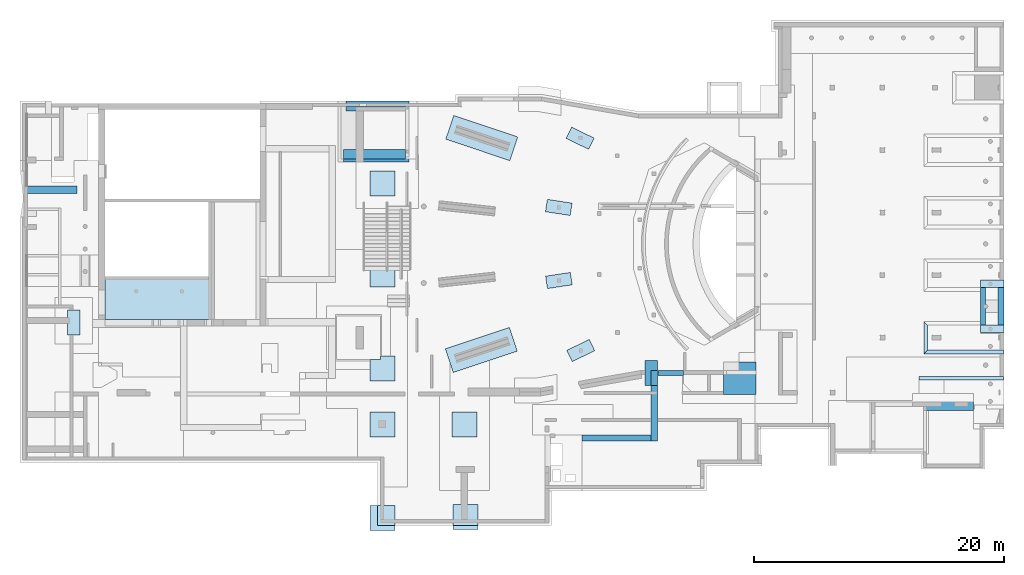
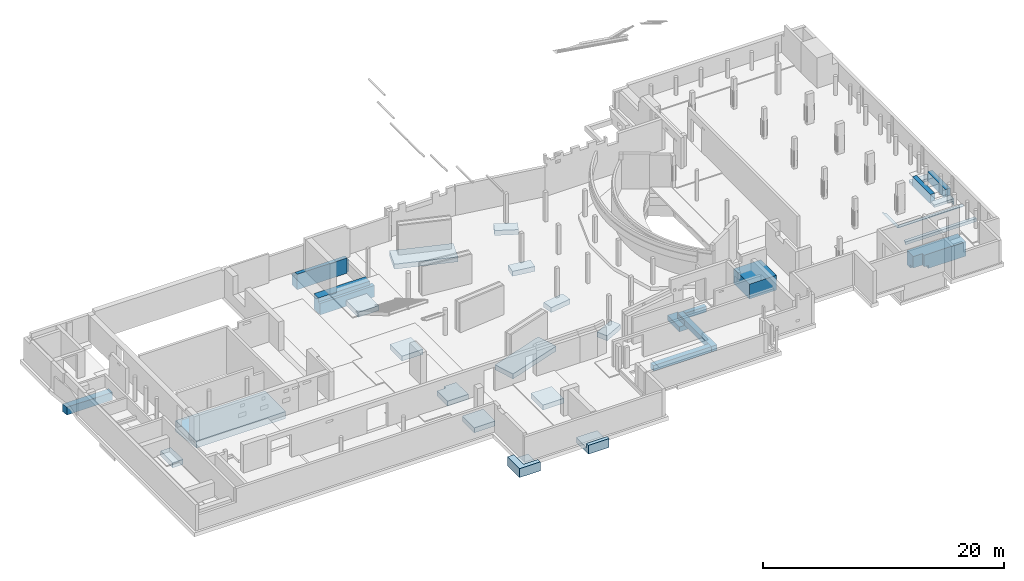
# One storey, part 1 of 42: 31 footings.
"""IFC2X3 building model written with IfcOpenShell, lengths in millimetres."""

from ifc_helpers import new_model, entity, si_unit, converted_unit, derived_unit, direction, frame, frame_2d, origin, origin_2d_with_axis, place, context, subcontext, project, spatial, polyline, rectangle, outline, extrude, faceted_brep, source, transform, mapped, material, type_object, type_shapes, element, save


model = new_model("IFC2X3")

# Units and contexts
model_context = context("Model", 3, precision=0.01, world=origin(), true_north=direction((6.12303176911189e-17, 1.0)))
body_context = subcontext(model_context, "Body", "Model", "MODEL_VIEW")
ifc_project = project(units=[si_unit("LENGTHUNIT", "METRE", prefix="MILLI"), si_unit("AREAUNIT", "SQUARE_METRE", prefix="MILLI"), si_unit("VOLUMEUNIT", "CUBIC_METRE"), converted_unit("PLANEANGLEUNIT", "DEGREE", entity("IfcRatioMeasure", 0.0174532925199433), si_unit("PLANEANGLEUNIT", "RADIAN"), dimensions=[0, 0, 0, 0, 0, 0, 0]), si_unit("MASSUNIT", "GRAM", prefix="KILO"), derived_unit("MASSDENSITYUNIT", [(si_unit("MASSUNIT", "GRAM", prefix="KILO"), 1), (si_unit("LENGTHUNIT", "METRE"), -3)]), derived_unit("MOMENTOFINERTIAUNIT", [(si_unit("LENGTHUNIT", "METRE"), 4)]), si_unit("TIMEUNIT", "SECOND"), si_unit("FREQUENCYUNIT", "HERTZ"), si_unit("THERMODYNAMICTEMPERATUREUNIT", "DEGREE_CELSIUS"), derived_unit("THERMALTRANSMITTANCEUNIT", [(si_unit("MASSUNIT", "GRAM", prefix="KILO"), 1), (si_unit("THERMODYNAMICTEMPERATUREUNIT", "KELVIN"), -1), (si_unit("TIMEUNIT", "SECOND"), -3)]), derived_unit("VOLUMETRICFLOWRATEUNIT", [(si_unit("LENGTHUNIT", "METRE"), 3), (si_unit("TIMEUNIT", "SECOND"), -1)]), si_unit("ELECTRICCURRENTUNIT", "AMPERE"), si_unit("ELECTRICVOLTAGEUNIT", "VOLT"), si_unit("POWERUNIT", "WATT"), si_unit("FORCEUNIT", "NEWTON", prefix="KILO"), si_unit("ILLUMINANCEUNIT", "LUX"), si_unit("LUMINOUSFLUXUNIT", "LUMEN"), si_unit("LUMINOUSINTENSITYUNIT", "CANDELA"), derived_unit("USERDEFINED", [(si_unit("MASSUNIT", "GRAM", prefix="KILO"), -1), (si_unit("LENGTHUNIT", "METRE"), -2), (si_unit("TIMEUNIT", "SECOND"), 3), (si_unit("LUMINOUSFLUXUNIT", "LUMEN"), 1)]), derived_unit("LINEARVELOCITYUNIT", [(si_unit("LENGTHUNIT", "METRE"), 1), (si_unit("TIMEUNIT", "SECOND"), -1)]), si_unit("PRESSUREUNIT", "PASCAL"), derived_unit("USERDEFINED", [(si_unit("LENGTHUNIT", "METRE"), -2), (si_unit("MASSUNIT", "GRAM", prefix="KILO"), 1), (si_unit("TIMEUNIT", "SECOND"), -2)]), derived_unit("LINEARFORCEUNIT", [(si_unit("MASSUNIT", "GRAM", prefix="KILO"), 1), (si_unit("LENGTHUNIT", "METRE"), 1), (si_unit("TIMEUNIT", "SECOND"), -2), (si_unit("LENGTHUNIT", "METRE"), -1)]), derived_unit("PLANARFORCEUNIT", [(si_unit("MASSUNIT", "GRAM", prefix="KILO"), 1), (si_unit("LENGTHUNIT", "METRE"), 1), (si_unit("TIMEUNIT", "SECOND"), -2), (si_unit("LENGTHUNIT", "METRE"), -2)])], contexts=[model_context])

# Site, building, storey
site_placement = place(None, origin())
site = spatial("IfcSite", under=ifc_project, at=site_placement, Name="Theater aan de Parade", CompositionType="ELEMENT")
building_placement = place(site_placement, origin())
building = spatial("IfcBuilding", under=site, at=building_placement, Name="Theater aan de Parade", CompositionType="ELEMENT")
storey_placement = place(building_placement, frame((0.0, 0.0, -3300.0)))
storey = spatial("IfcBuildingStorey", under=building, at=storey_placement, Name="-1 kelder", CompositionType="ELEMENT", Elevation=-3300.0)

# Footings
ifc_material_1 = material(Name="00_PBT_MAT_beton t.p.g.")
type_product_1 = type_object("IfcTypeProduct", Name="16_PBT_SF_funderingsbalk:600x1360_bestaand", material=ifc_material_1)
shared_shape_1 = source(origin(), body_context, "Body", "SweptSolid", [
    extrude(outline(polyline([(35.0, -1167.50000000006), (295.0, -1167.50000000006), (295.0, 722.500000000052), (-365.0, 722.500000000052), (-365.0, 702.499999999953), (35.0, 702.499999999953), (35.0, 252.500000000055), (35.0, -767.500000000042), (35.0, -1167.50000000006)])), frame((87957.5000000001, 28970.0, -3635.0), z_axis=(0.0, 1.0, 0.0), x_axis=(0.0, 0.0, 1.0)), (0.0, 0.0, 1.0), 600.000000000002),
])
type_shapes(type_product_1, [shared_shape_1])
footing_1_placement = place(storey_placement, frame((0.0, 0.0, 3300.0)))
element("IfcFooting", 1, at=footing_1_placement, inside=storey, type_object=type_product_1, material=ifc_material_1, Name="16_PBT_SF_funderingsbalk:600x1360_bestaand", ObjectType="16_PBT_SF_funderingsbalk:600x1360_bestaand", context=body_context, shape_type="MappedRepresentation", body=[
    mapped(shared_shape_1, transform((0.0, 0.0, 0.0), scale=1.0)),
])
type_product_2 = type_object("IfcTypeProduct", Name="16_PBT_SF_funderingsbalk:600x1360_bestaand", material=ifc_material_1)
shared_shape_2 = source(origin(), body_context, "Body", "SweptSolid", [
    extrude(outline(polyline([(46.6666666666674, -1253.33333333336), (306.666666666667, -1253.33333333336), (306.666666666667, 636.66666666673), (-353.333333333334, 636.66666666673), (-353.333333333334, 616.666666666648), (46.6666666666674, 616.666666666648), (46.6666666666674, -1253.33333333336)])), frame((88043.3333333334, 25370.0, -3646.66666666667), z_axis=(0.0, 1.0, 0.0), x_axis=(0.0, 0.0, 1.0)), (0.0, 0.0, 1.0), 600.000000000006),
])
type_shapes(type_product_2, [shared_shape_2])
footing_2_placement = place(storey_placement, frame((0.0, 0.0, 3300.0)))
element("IfcFooting", 2, at=footing_2_placement, inside=storey, type_object=type_product_2, material=ifc_material_1, Name="16_PBT_SF_funderingsbalk:600x1360_bestaand", ObjectType="16_PBT_SF_funderingsbalk:600x1360_bestaand", context=body_context, shape_type="MappedRepresentation", body=[
    mapped(shared_shape_2, transform((0.0, 0.0, 0.0), scale=1.0)),
])
type_product_3 = type_object("IfcTypeProduct", Name="16_PBT_SF_funderingsbalk:400x1360_bestaand", material=ifc_material_1)
shared_shape_3 = source(origin(), body_context, "Body", "SweptSolid", [
    extrude(rectangle(XDim=3000.00000000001, YDim=400.000000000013, at=frame_2d((-6.48014975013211e-12, -66.6666666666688), x_axis=(1.0, 0.0))), frame((87056.6666666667, 27470.0, -3600.0), z_axis=(0.0, 0.0, 1.0), x_axis=(0.0, -1.0, 0.0)), (0.0, 0.0, 1.0), 959.999999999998),
])
type_shapes(type_product_3, [shared_shape_3])
footing_3_placement = place(storey_placement, frame((0.0, 0.0, 3300.0)))
element("IfcFooting", 3, at=footing_3_placement, inside=storey, type_object=type_product_3, material=ifc_material_1, Name="16_PBT_SF_funderingsbalk:400x1360_bestaand", ObjectType="16_PBT_SF_funderingsbalk:400x1360_bestaand", context=body_context, shape_type="MappedRepresentation", body=[
    mapped(shared_shape_3, transform((0.0, 0.0, 0.0), scale=1.0)),
])
type_product_4 = type_object("IfcTypeProduct", Name="16_PBT_SF_funderingsbalk:470x1360_bestaand", material=ifc_material_1)
shared_shape_4 = source(origin(), body_context, "Body", "SweptSolid", [
    extrude(outline(polyline([(-288.749999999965, -692.499999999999), (181.250000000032, -692.499999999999), (181.250000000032, 7.49999999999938), (181.250000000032, 667.500000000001), (161.249999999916, 667.500000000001), (161.249999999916, 267.499999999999), (-288.749999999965, 267.499999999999), (-288.749999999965, -492.500000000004), (-288.749999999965, -692.499999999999)])), frame((88498.7500000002, 25970.0, -3332.5), z_axis=(0.0, 1.0, 0.0), x_axis=(1.0, 0.0, 0.0)), (0.0, 0.0, 1.0), 3000.0),
])
type_shapes(type_product_4, [shared_shape_4])
footing_4_placement = place(storey_placement, frame((0.0, 0.0, 3300.0)))
element("IfcFooting", 4, at=footing_4_placement, inside=storey, type_object=type_product_4, material=ifc_material_1, Name="16_PBT_SF_funderingsbalk:470x1360_bestaand", ObjectType="16_PBT_SF_funderingsbalk:470x1360_bestaand", context=body_context, shape_type="MappedRepresentation", body=[
    mapped(shared_shape_4, transform((0.0, 0.0, 0.0), scale=1.0)),
])
type_product_5 = type_object("IfcTypeProduct", Name="16_PBT_SF_funderingsbalk_driehoek:300x300_bestaand", material=ifc_material_1)
shared_shape_5 = source(origin(), body_context, "Body", "Brep", [
    faceted_brep([(6390.0, 300.0, 300.0), (6390.0, 0.0, 300.0), (6390.0, 300.0, 0.0), (300.0, 300.0, 300.0), (0.0, 0.0, 300.0), (300.0, 300.0, 0.0)], [[[0, 1, 2]], [[1, 0, 3, 4]], [[2, 1, 4, 5]], [[0, 2, 5, 3]], [[3, 5, 4]]]),
])
type_shapes(type_product_5, [shared_shape_5])
footing_5_placement = place(storey_placement, frame((82270.0, 23670.0, -40.0)))
element("IfcFooting", 5, at=footing_5_placement, inside=storey, type_object=type_product_5, material=ifc_material_1, Name="16_PBT_SF_funderingsbalk_driehoek:300x300_bestaand", ObjectType="16_PBT_SF_funderingsbalk_driehoek:300x300_bestaand", context=body_context, shape_type="MappedRepresentation", body=[
    mapped(shared_shape_5, transform((0.0, 0.0, 0.0), scale=1.0)),
])
type_product_6 = type_object("IfcTypeProduct", Name="16_PBT_SF_funderingsbalk_driehoek:300x300_bestaand", material=ifc_material_1)
shared_shape_6 = source(origin(), body_context, "Body", "Brep", [
    faceted_brep([(300.0, 300.0, 300.0), (300.0, 2300.0, 300.0), (0.0, 2600.0, 300.0), (0.0, 0.0, 300.0), (300.0, 2300.0, 0.0), (300.0, 300.0, 0.0)], [[[0, 1, 2, 3]], [[3, 2, 4, 5]], [[1, 0, 5, 4]], [[0, 3, 5]], [[1, 4, 2]]]),
])
type_shapes(type_product_6, [shared_shape_6])
footing_6_placement = place(storey_placement, frame((82270.0, 23670.0, -40.0)))
element("IfcFooting", 6, at=footing_6_placement, inside=storey, type_object=type_product_6, material=ifc_material_1, Name="16_PBT_SF_funderingsbalk_driehoek:300x300_bestaand", ObjectType="16_PBT_SF_funderingsbalk_driehoek:300x300_bestaand", context=body_context, shape_type="MappedRepresentation", body=[
    mapped(shared_shape_6, transform((0.0, 0.0, 0.0), scale=1.0)),
])
type_product_7 = type_object("IfcTypeProduct", Name="16_PBT_SF_funderingsbalk_driehoek:300x300_bestaand", material=ifc_material_1)
shared_shape_7 = source(origin(), body_context, "Body", "SweptSolid", [
    extrude(outline(polyline([(-100.0, -100.0), (200.0, -100.0), (-100.0, 200.0), (-100.0, -100.0)])), frame((81870.0, 21670.0, -3140.0), z_axis=(1.0, 0.0, 0.0), x_axis=(0.0, 0.0, -1.0)), (0.0, 0.0, 1.0), 6789.99999999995),
])
type_shapes(type_product_7, [shared_shape_7])
footing_7_placement = place(storey_placement, frame((0.0, 0.0, 3300.0)))
element("IfcFooting", 7, at=footing_7_placement, inside=storey, type_object=type_product_7, material=ifc_material_1, Name="16_PBT_SF_funderingsbalk_driehoek:300x300_bestaand", ObjectType="16_PBT_SF_funderingsbalk_driehoek:300x300_bestaand", context=body_context, shape_type="MappedRepresentation", body=[
    mapped(shared_shape_7, transform((0.0, 0.0, 0.0), scale=1.0)),
])
type_product_8 = type_object("IfcTypeProduct", Name="16_PBT_SF_funderingsbalk:400x960_bestaand", material=ifc_material_1)
shared_shape_8 = source(origin(), body_context, "Body", "SweptSolid", [
    extrude(rectangle(XDim=2042.29999999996, YDim=400.0, at=frame_2d((-192.230000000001, 40.0000000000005), x_axis=(1.0, 0.0))), frame((62206.0800000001, 22100.0, -3740.0)), (0.0, 0.0, 1.0), 560.0),
])
type_shapes(type_product_8, [shared_shape_8])
footing_8_placement = place(storey_placement, frame((0.0, 0.0, 3300.0)))
element("IfcFooting", 8, at=footing_8_placement, inside=storey, type_object=type_product_8, material=ifc_material_1, Name="16_PBT_SF_funderingsbalk:400x960_bestaand", ObjectType="16_PBT_SF_funderingsbalk:400x960_bestaand", context=body_context, shape_type="MappedRepresentation", body=[
    mapped(shared_shape_8, transform((0.0, 0.0, 0.0), scale=1.0)),
])
type_product_9 = type_object("IfcTypeProduct", Name="16_PBT_SF_funderingsbalk:510x960_bestaand", material=ifc_material_1)
shared_shape_9 = source(origin(), body_context, "Body", "SweptSolid", [
    extrude(outline(polyline([(6.6666666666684, -2953.9401852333), (166.666666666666, -2953.9401852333), (166.666666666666, -1268.9316208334), (166.666666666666, -1018.9316208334), (166.666666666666, 874.692361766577), (166.666666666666, 1124.69236176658), (166.666666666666, 2186.05981476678), (166.666666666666, 2686.05981476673), (-393.333333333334, 2686.05981476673), (-393.333333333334, 2186.05981476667), (-393.333333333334, -1773.9401852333), (6.6666666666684, -1773.9401852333), (6.6666666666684, -2953.9401852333)])), frame((60470.0, 19386.0598147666, -3346.66666666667), z_axis=(1.0, 0.0, 0.0), x_axis=(0.0, 0.0, 1.0)), (0.0, 0.0, 1.0), 510.000000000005),
])
type_shapes(type_product_9, [shared_shape_9])
footing_9_placement = place(storey_placement, frame((0.0, 0.0, 3300.0)))
element("IfcFooting", 9, at=footing_9_placement, inside=storey, type_object=type_product_9, material=ifc_material_1, Name="16_PBT_SF_funderingsbalk:510x960_bestaand", ObjectType="16_PBT_SF_funderingsbalk:510x960_bestaand", context=body_context, shape_type="MappedRepresentation", body=[
    mapped(shared_shape_9, transform((0.0, 0.0, 0.0), scale=1.0)),
])
type_product_10 = type_object("IfcTypeProduct", Name="16_PBT_SF_funderingsbalk:500x960_bestaand", material=ifc_material_1)
shared_shape_10 = source(origin(), body_context, "Body", "SweptSolid", [
    extrude(rectangle(XDim=5555.0, YDim=500.000000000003, at=frame_2d((0.0, -1.08002495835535e-12), x_axis=(1.0, 0.0))), frame((57692.5000000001, 16950.0, -3740.0)), (0.0, 0.0, 1.0), 560.0),
])
type_shapes(type_product_10, [shared_shape_10])
footing_10_placement = place(storey_placement, frame((0.0, 0.0, 3300.0)))
element("IfcFooting", 10, at=footing_10_placement, inside=storey, type_object=type_product_10, material=ifc_material_1, Name="16_PBT_SF_funderingsbalk:500x960_bestaand", ObjectType="16_PBT_SF_funderingsbalk:500x960_bestaand", context=body_context, shape_type="MappedRepresentation", body=[
    mapped(shared_shape_10, transform((0.0, 0.0, 0.0), scale=1.0)),
])
type_product_11 = type_object("IfcTypeProduct", Name="16_PBT_SFO_beton_poer:1000x2000x900_bestaand", material=ifc_material_1)
shared_shape_11 = source(origin(), body_context, "Body", "Brep", [
    faceted_brep([(490.0, 0.0, 900.0), (1000.0, 0.0, 900.0), (1000.0, 1180.0, 900.0), (490.0, 1180.0, 900.0), (1000.0, 2000.0, 0.0), (1000.0, 0.0, 0.0), (0.0, 0.0, 0.0), (0.0, 2000.0, 0.0), (0.0, 2000.0, 500.0), (1000.0, 2000.0, 500.0), (0.0, 0.0, 500.0), (1000.0, 0.0, 500.0), (490.0, 0.0, 500.0), (1000.0, 1180.0, 500.0), (490.0, 1180.0, 500.0)], [[[0, 1, 2, 3]], [[4, 5, 6, 7]], [[4, 7, 8, 9]], [[7, 6, 10, 8]], [[6, 5, 11, 1, 0, 12, 10]], [[5, 4, 9, 13, 2, 1, 11]], [[12, 14, 13, 9, 8, 10]], [[14, 3, 2, 13]], [[3, 14, 12, 0]]]),
])
type_shapes(type_product_11, [shared_shape_11])
footing_11_placement = place(storey_placement, frame((59980.0, 21160.0, -940.0)))
element("IfcFooting", 11, at=footing_11_placement, inside=storey, type_object=type_product_11, material=ifc_material_1, Name="16_PBT_SFO_beton_poer:1000x2000x900_bestaand", ObjectType="16_PBT_SFO_beton_poer:1000x2000x900_bestaand", context=body_context, shape_type="MappedRepresentation", body=[
    mapped(shared_shape_11, transform((0.0, 0.0, 0.0), scale=1.0)),
])
type_product_12 = type_object("IfcTypeProduct", Name="16_PBT_SFO_beton_poer:1000x2000x900_bestaand", material=ifc_material_1)
shared_shape_12 = source(origin(), body_context, "Body", "SweptSolid", [
    extrude(rectangle(XDim=1000.0, YDim=2000.00000000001, at=frame_2d((5.76960701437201e-12, -1.98951966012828e-12), x_axis=(1.0, 0.0))), frame((54785.0, 40913.0, -4240.0), z_axis=(0.0, 0.0, 1.0), x_axis=(-0.438387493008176, -0.898786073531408, 0.0)), (0.0, 0.0, 1.0), 499.999999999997),
])
type_shapes(type_product_12, [shared_shape_12])
footing_12_placement = place(storey_placement, frame((0.0, 0.0, 3300.0)))
element("IfcFooting", 12, at=footing_12_placement, inside=storey, type_object=type_product_12, material=ifc_material_1, Name="16_PBT_SFO_beton_poer:1000x2000x900_bestaand", ObjectType="16_PBT_SFO_beton_poer:1000x2000x900_bestaand", context=body_context, shape_type="MappedRepresentation", body=[
    mapped(shared_shape_12, transform((0.0, 0.0, 0.0), scale=1.0)),
])
type_product_13 = type_object("IfcTypeProduct", Name="16_PBT_SFO_beton_poer:1000x2000x900_bestaand", material=ifc_material_1)
shared_shape_13 = source(origin(), body_context, "Body", "SweptSolid", [
    extrude(rectangle(XDim=1000.0, YDim=2000.0, at=frame_2d((3.60955709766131e-12, 4.83169060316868e-12), x_axis=(1.0, 0.0))), frame((53075.0, 35382.0, -4240.0), z_axis=(0.0, 0.0, 1.0), x_axis=(-0.149610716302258, -0.988744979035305, 0.0)), (0.0, 0.0, 1.0), 499.999999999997),
])
type_shapes(type_product_13, [shared_shape_13])
footing_13_placement = place(storey_placement, frame((0.0, 0.0, 3300.0)))
element("IfcFooting", 13, at=footing_13_placement, inside=storey, type_object=type_product_13, material=ifc_material_1, Name="16_PBT_SFO_beton_poer:1000x2000x900_bestaand", ObjectType="16_PBT_SFO_beton_poer:1000x2000x900_bestaand", context=body_context, shape_type="MappedRepresentation", body=[
    mapped(shared_shape_13, transform((0.0, 0.0, 0.0), scale=1.0)),
])
type_product_14 = type_object("IfcTypeProduct", Name="16_PBT_SFO_beton_poer:1000x2000x900_bestaand", material=ifc_material_1)
shared_shape_14 = source(origin(), body_context, "Body", "SweptSolid", [
    extrude(rectangle(XDim=1000.0, YDim=2000.00000000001, at=frame_2d((-3.78008735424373e-12, -7.7875483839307e-12), x_axis=(1.0, 0.0))), frame((54830.0, 23937.0, -4240.0), z_axis=(0.0, 0.0, 1.0), x_axis=(-0.438387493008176, 0.898786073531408, 0.0)), (0.0, 0.0, 1.0), 499.999999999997),
])
type_shapes(type_product_14, [shared_shape_14])
footing_14_placement = place(storey_placement, frame((0.0, 0.0, 3300.0)))
element("IfcFooting", 14, at=footing_14_placement, inside=storey, type_object=type_product_14, material=ifc_material_1, Name="16_PBT_SFO_beton_poer:1000x2000x900_bestaand", ObjectType="16_PBT_SFO_beton_poer:1000x2000x900_bestaand", context=body_context, shape_type="MappedRepresentation", body=[
    mapped(shared_shape_14, transform((0.0, 0.0, 0.0), scale=1.0)),
])
type_product_15 = type_object("IfcTypeProduct", Name="16_PBT_SFO_beton_poer:1000x2000x900_bestaand", material=ifc_material_1)
shared_shape_15 = source(origin(), body_context, "Body", "SweptSolid", [
    extrude(rectangle(XDim=1000.0, YDim=2000.0, at=origin_2d_with_axis()), frame((53085.0, 29538.0, -4240.0), z_axis=(0.0, 0.0, 1.0), x_axis=(-0.149610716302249, 0.988744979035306, 0.0)), (0.0, 0.0, 1.0), 499.999999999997),
])
type_shapes(type_product_15, [shared_shape_15])
footing_15_placement = place(storey_placement, frame((0.0, 0.0, 3300.0)))
element("IfcFooting", 15, at=footing_15_placement, inside=storey, type_object=type_product_15, material=ifc_material_1, Name="16_PBT_SFO_beton_poer:1000x2000x900_bestaand", ObjectType="16_PBT_SFO_beton_poer:1000x2000x900_bestaand", context=body_context, shape_type="MappedRepresentation", body=[
    mapped(shared_shape_15, transform((0.0, 0.0, 0.0), scale=1.0)),
])
type_product_16 = type_object("IfcTypeProduct", Name="16_PBT_SFO_beton_poer:5400x2000x900_bestaand", material=ifc_material_1)
shared_shape_16 = source(origin(), body_context, "Body", "SweptSolid", [
    extrude(rectangle(XDim=5400.0, YDim=2000.0, at=frame_2d((-1.36424205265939e-12, 4.14956957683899e-12), x_axis=(1.0, 0.0))), frame((46915.4271453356, 40928.8630805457, -4240.0), z_axis=(0.0, 0.0, 1.0), x_axis=(0.948323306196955, -0.317305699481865, 0.0)), (0.0, 0.0, 1.0), 499.999999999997),
])
type_shapes(type_product_16, [shared_shape_16])
footing_16_placement = place(storey_placement, frame((0.0, 0.0, 3300.0)))
element("IfcFooting", 16, at=footing_16_placement, inside=storey, type_object=type_product_16, material=ifc_material_1, Name="16_PBT_SFO_beton_poer:5400x2000x900_bestaand", ObjectType="16_PBT_SFO_beton_poer:5400x2000x900_bestaand", context=body_context, shape_type="MappedRepresentation", body=[
    mapped(shared_shape_16, transform((0.0, 0.0, 0.0), scale=1.0)),
])
type_product_17 = type_object("IfcTypeProduct", Name="16_PBT_SFO_beton_poer:5400x2000x900_bestaand", material=ifc_material_1)
shared_shape_17 = source(origin(), body_context, "Body", "SweptSolid", [
    extrude(rectangle(XDim=5400.0, YDim=2000.0, at=origin_2d_with_axis()), frame((46884.2416971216, 23984.340058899, -4240.0), z_axis=(0.0, 0.0, 1.0), x_axis=(0.948323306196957, 0.31730569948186, 0.0)), (0.0, 0.0, 1.0), 499.999999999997),
])
type_shapes(type_product_17, [shared_shape_17])
footing_17_placement = place(storey_placement, frame((0.0, 0.0, 3300.0)))
element("IfcFooting", 17, at=footing_17_placement, inside=storey, type_object=type_product_17, material=ifc_material_1, Name="16_PBT_SFO_beton_poer:5400x2000x900_bestaand", ObjectType="16_PBT_SFO_beton_poer:5400x2000x900_bestaand", context=body_context, shape_type="MappedRepresentation", body=[
    mapped(shared_shape_17, transform((0.0, 0.0, 0.0), scale=1.0)),
])
type_product_18 = type_object("IfcTypeProduct", Name="16_PBT_SFO_beton_poer:2000x2000x900_bestaand", material=ifc_material_1)
shared_shape_18 = source(origin(), body_context, "Body", "SweptSolid", [
    extrude(rectangle(XDim=2000.0, YDim=2000.0, at=origin_2d_with_axis()), frame((45525.0, 18040.0, -4240.0), z_axis=(0.0, 0.0, 1.0), x_axis=(-1.0, 0.0, 0.0)), (0.0, 0.0, 1.0), 499.999999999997),
])
type_shapes(type_product_18, [shared_shape_18])
footing_18_placement = place(storey_placement, frame((0.0, 0.0, 3300.0)))
element("IfcFooting", 18, at=footing_18_placement, inside=storey, type_object=type_product_18, material=ifc_material_1, Name="16_PBT_SFO_beton_poer:2000x2000x900_bestaand", ObjectType="16_PBT_SFO_beton_poer:2000x2000x900_bestaand", context=body_context, shape_type="MappedRepresentation", body=[
    mapped(shared_shape_18, transform((0.0, 0.0, 0.0), scale=1.0)),
])
type_product_19 = type_object("IfcTypeProduct", Name="16_PBT_SFO_beton_poer:2000x2000x900_bestaand", material=ifc_material_1)
shared_shape_19 = source(origin(), body_context, "Body", "SweptSolid", [
    extrude(outline(polyline([(-466.666666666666, -1223.33333333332), (33.3333333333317, -1223.33333333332), (33.3333333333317, 446.666666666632), (433.333333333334, 446.666666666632), (433.333333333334, 776.666666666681), (-466.666666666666, 776.666666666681), (-466.666666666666, -1223.33333333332)])), frame((44600.0, 10406.6666666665, -3773.33333333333), z_axis=(1.0, 0.0, 0.0), x_axis=(0.0, 0.0, 1.0)), (0.0, 0.0, 1.0), 2000.0),
])
type_shapes(type_product_19, [shared_shape_19])
footing_19_placement = place(storey_placement, frame((0.0, 0.0, 3300.0)))
element("IfcFooting", 19, at=footing_19_placement, inside=storey, type_object=type_product_19, material=ifc_material_1, Name="16_PBT_SFO_beton_poer:2000x2000x900_bestaand", ObjectType="16_PBT_SFO_beton_poer:2000x2000x900_bestaand", context=body_context, shape_type="MappedRepresentation", body=[
    mapped(shared_shape_19, transform((0.0, 0.0, 0.0), scale=1.0)),
])
type_product_20 = type_object("IfcTypeProduct", Name="16_PBT_SFO_beton_poer:2000x2000x900_bestaand", material=ifc_material_1)
shared_shape_20 = source(origin(), body_context, "Body", "SweptSolid", [
    extrude(rectangle(XDim=2000.0, YDim=2000.0, at=frame_2d((2.1600499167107e-12, 0.0), x_axis=(1.0, 0.0))), frame((38965.0, 18040.0, -4240.0), z_axis=(0.0, 0.0, 1.0), x_axis=(-1.0, 0.0, 0.0)), (0.0, 0.0, 1.0), 499.999999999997),
])
type_shapes(type_product_20, [shared_shape_20])
footing_20_placement = place(storey_placement, frame((0.0, 0.0, 3300.0)))
element("IfcFooting", 20, at=footing_20_placement, inside=storey, type_object=type_product_20, material=ifc_material_1, Name="16_PBT_SFO_beton_poer:2000x2000x900_bestaand", ObjectType="16_PBT_SFO_beton_poer:2000x2000x900_bestaand", context=body_context, shape_type="MappedRepresentation", body=[
    mapped(shared_shape_20, transform((0.0, 0.0, 0.0), scale=1.0)),
])
type_product_21 = type_object("IfcTypeProduct", Name="16_PBT_SFO_beton_poer:2000x2000x900_bestaand", material=ifc_material_1)
shared_shape_21 = source(origin(), body_context, "Body", "Brep", [
    faceted_brep([(0.0, 2000.0, 900.0), (0.0, 0.0, 900.0), (2000.0, 0.0, 900.0), (2000.0, 400.0, 900.0), (610.0, 400.0, 900.0), (610.0, 2000.0, 900.0), (2000.0, 2000.0, 0.0), (2000.0, 0.0, 0.0), (0.0, 0.0, 0.0), (0.0, 2000.0, 0.0), (610.0, 2000.0, 500.0), (2000.0, 2000.0, 500.0), (2000.0, 400.0, 500.0), (610.0, 400.0, 500.0)], [[[0, 1, 2, 3, 4, 5]], [[6, 7, 8, 9]], [[6, 9, 0, 5, 10, 11]], [[1, 0, 9, 8]], [[2, 1, 8, 7]], [[7, 6, 11, 12, 3, 2]], [[10, 13, 12, 11]], [[13, 4, 3, 12]], [[4, 13, 10, 5]]]),
])
type_shapes(type_product_21, [shared_shape_21])
footing_21_placement = place(storey_placement, frame((37965.0, 9560.0, -940.0)))
element("IfcFooting", 21, at=footing_21_placement, inside=storey, type_object=type_product_21, material=ifc_material_1, Name="16_PBT_SFO_beton_poer:2000x2000x900_bestaand", ObjectType="16_PBT_SFO_beton_poer:2000x2000x900_bestaand", context=body_context, shape_type="MappedRepresentation", body=[
    mapped(shared_shape_21, transform((0.0, 0.0, 0.0), scale=1.0)),
])
type_product_22 = type_object("IfcTypeProduct", Name="16_PBT_SFO_beton_poer:2000x2000x900_bestaand", material=ifc_material_1)
shared_shape_22 = source(origin(), body_context, "Body", "SweptSolid", [
    extrude(outline(polyline([(-1279.19031165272, -655.482964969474), (-1263.80400390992, -655.482964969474), (-264.292879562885, -655.482964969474), (-119.190311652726, -655.482964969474), (-119.19031165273, -377.85036836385), (720.809688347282, -377.85036836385), (720.809688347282, -310.960689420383), (720.809688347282, 142.868345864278), (720.809688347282, 201.430917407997), (720.809688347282, 655.259952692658), (720.809688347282, 1344.51703503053), (-1279.19031165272, 1344.51703503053), (-1279.19031165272, -655.482964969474)])), frame((38685.8096883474, 22834.5170350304, -4240.0), z_axis=(0.0, 0.0, 1.0), x_axis=(-1.0, 0.0, 0.0)), (0.0, 0.0, 1.0), 499.999999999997),
])
type_shapes(type_product_22, [shared_shape_22])
footing_22_placement = place(storey_placement, frame((0.0, 0.0, 3300.0)))
element("IfcFooting", 22, at=footing_22_placement, inside=storey, type_object=type_product_22, material=ifc_material_1, Name="16_PBT_SFO_beton_poer:2000x2000x900_bestaand", ObjectType="16_PBT_SFO_beton_poer:2000x2000x900_bestaand", context=body_context, shape_type="MappedRepresentation", body=[
    mapped(shared_shape_22, transform((0.0, 0.0, 0.0), scale=1.0)),
])
type_product_23 = type_object("IfcTypeProduct", Name="16_PBT_SFO_beton_poer:2000x2000x900_bestaand", material=ifc_material_1)
shared_shape_23 = source(origin(), body_context, "Body", "SweptSolid", [
    extrude(rectangle(XDim=2000.0, YDim=2000.0, at=frame_2d((2.1600499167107e-12, -2.1600499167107e-12), x_axis=(1.0, 0.0))), frame((38965.0, 30010.0, -4240.0), z_axis=(0.0, 0.0, 1.0), x_axis=(-1.0, 0.0, 0.0)), (0.0, 0.0, 1.0), 499.999999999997),
])
type_shapes(type_product_23, [shared_shape_23])
footing_23_placement = place(storey_placement, frame((0.0, 0.0, 3300.0)))
element("IfcFooting", 23, at=footing_23_placement, inside=storey, type_object=type_product_23, material=ifc_material_1, Name="16_PBT_SFO_beton_poer:2000x2000x900_bestaand", ObjectType="16_PBT_SFO_beton_poer:2000x2000x900_bestaand", context=body_context, shape_type="MappedRepresentation", body=[
    mapped(shared_shape_23, transform((0.0, 0.0, 0.0), scale=1.0)),
])
type_product_24 = type_object("IfcTypeProduct", Name="16_PBT_SFO_beton_poer:2000x2000x900_bestaand", material=ifc_material_1)
shared_shape_24 = source(origin(), body_context, "Body", "SweptSolid", [
    extrude(rectangle(XDim=2000.0, YDim=2000.0, at=frame_2d((-0.407991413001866, 487.02496948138), x_axis=(1.0, 0.0))), frame((38964.5920085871, 37797.0249694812, -4240.0), z_axis=(0.0, 0.0, 1.0), x_axis=(-1.0, 0.0, 0.0)), (0.0, 0.0, 1.0), 499.999999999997),
])
type_shapes(type_product_24, [shared_shape_24])
footing_24_placement = place(storey_placement, frame((0.0, 0.0, 3300.0)))
element("IfcFooting", 24, at=footing_24_placement, inside=storey, type_object=type_product_24, material=ifc_material_1, Name="16_PBT_SFO_beton_poer:2000x2000x900_bestaand", ObjectType="16_PBT_SFO_beton_poer:2000x2000x900_bestaand", context=body_context, shape_type="MappedRepresentation", body=[
    mapped(shared_shape_24, transform((0.0, 0.0, 0.0), scale=1.0)),
])
type_product_25 = type_object("IfcTypeProduct", Name="16_PBT_SFO_beton_poer:1000x2000x900_bestaand", material=ifc_material_1)
shared_shape_25 = source(origin(), body_context, "Body", "SweptSolid", [
    extrude(rectangle(XDim=1000.0, YDim=2000.0, at=frame_2d((1.08002495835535e-12, 2.1600499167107e-12), x_axis=(1.0, 0.0))), frame((14275.0, 26160.0, -4240.0), z_axis=(0.0, 0.0, 1.0), x_axis=(-1.0, 0.0, 0.0)), (0.0, 0.0, 1.0), 499.999999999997),
])
type_shapes(type_product_25, [shared_shape_25])
footing_25_placement = place(storey_placement, frame((0.0, 0.0, 3300.0)))
element("IfcFooting", 25, at=footing_25_placement, inside=storey, type_object=type_product_25, material=ifc_material_1, Name="16_PBT_SFO_beton_poer:1000x2000x900_bestaand", ObjectType="16_PBT_SFO_beton_poer:1000x2000x900_bestaand", context=body_context, shape_type="MappedRepresentation", body=[
    mapped(shared_shape_25, transform((0.0, 0.0, 0.0), scale=1.0)),
])
type_product_26 = type_object("IfcTypeProduct", Name="16_PBT_SF_funderingsbalk:615x1180_bestaand", material=ifc_material_1)
shared_shape_26 = source(origin(), body_context, "Body", "SweptSolid", [
    extrude(outline(polyline([(-307.500000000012, -2196.61034788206), (307.499999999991, -2196.61034788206), (307.500000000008, 2228.49923677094), (-307.499999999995, 2164.72145899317), (-307.500000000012, -2196.61034788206)])), frame((12368.1620493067, 36807.4999999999, -4520.0), z_axis=(0.0, 0.0, 1.0), x_axis=(0.0, 1.0, 0.0)), (0.0, 0.0, 1.0), 780.000000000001),
])
type_shapes(type_product_26, [shared_shape_26])
footing_26_placement = place(storey_placement, frame((0.0, 0.0, 3300.0)))
element("IfcFooting", 26, at=footing_26_placement, inside=storey, type_object=type_product_26, material=ifc_material_1, Name="16_PBT_SF_funderingsbalk:615x1180_bestaand", ObjectType="16_PBT_SF_funderingsbalk:615x1180_bestaand", context=body_context, shape_type="MappedRepresentation", body=[
    mapped(shared_shape_26, transform((0.0, 0.0, 0.0), scale=1.0)),
])
ifc_material_2 = material(Name="00_PBT_MAT_beton t.p.g._C53/65")
type_product_27 = type_object("IfcTypeProduct", Name="16_PBT_SFO_beton_poer:2600x2600x1500_C53/65", material=ifc_material_2)
shared_shape_27 = source(origin(), body_context, "Body", "SweptSolid", [
    extrude(rectangle(XDim=2600.00000000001, YDim=2600.0, at=frame_2d((180.314025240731, 51.8739294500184), x_axis=(1.0, 0.0))), frame((67350.9420757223, 21653.11750615, -2640.0)), (0.0, 0.0, 1.0), 1500.0),
])
type_shapes(type_product_27, [shared_shape_27])
footing_27_placement = place(storey_placement, frame((0.0, 0.0, 3300.0)))
element("IfcFooting", 27, at=footing_27_placement, inside=storey, type_object=type_product_27, material=ifc_material_2, Name="16_PBT_SFO_beton_poer:2600x2600x1500_C53/65", ObjectType="16_PBT_SFO_beton_poer:2600x2600x1500_C53/65", context=body_context, shape_type="MappedRepresentation", body=[
    mapped(shared_shape_27, transform((0.0, 0.0, 0.0), scale=1.0)),
])
type_product_28 = type_object("IfcTypeProduct", Name="16_PBT_SFO_poer schuine onderzijde as B:16_PBT_SFO_poer schuine onderzijde as B_C53/65", material=ifc_material_2)
shared_shape_28 = source(origin(), body_context, "Body", "SweptSolid", [
    extrude(outline(polyline([(-362.436646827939, -2007.4), (337.480919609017, -2007.4), (749.829020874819, 1421.6), (-362.436646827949, 1421.6), (-362.436646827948, 1171.6), (-362.436646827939, -2007.4)])), frame((16775.0, 28417.4, -3702.43664682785), z_axis=(1.0, 0.0, 0.0), x_axis=(0.0, 0.0, -1.0)), (0.0, 0.0, 1.0), 8550.0),
])
type_shapes(type_product_28, [shared_shape_28])
footing_28_placement = place(storey_placement, frame((0.0, 0.0, 3300.0)))
element("IfcFooting", 28, at=footing_28_placement, inside=storey, type_object=type_product_28, material=ifc_material_2, Name="16_PBT_SFO_poer schuine onderzijde as B:16_PBT_SFO_poer schuine onderzijde as B_C53/65", ObjectType="16_PBT_SFO_poer schuine onderzijde as B:16_PBT_SFO_poer schuine onderzijde as B_C53/65", context=body_context, shape_type="MappedRepresentation", body=[
    mapped(shared_shape_28, transform((0.0, 0.0, 0.0), scale=1.0)),
])
ifc_material_3 = material(Name="00_PBT_MAT_beton t.p.g._C30/37")
type_product_29 = type_object("IfcTypeProduct", Name="16_PBT_SF_funderingsbalk enkele sponning:C30/37_1000x2060/250x400", material=ifc_material_3)
shared_shape_29 = source(origin(), body_context, "Body", "Brep", [
    faceted_brep([(5229.06481846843, 430.000005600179, 1160.0), (5229.06481846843, 0.0, 1160.0), (5229.06481846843, 0.0, 0.0), (5229.06481846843, 430.000005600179, 0.0), (0.0, 250.0, 1560.0), (0.0, 250.0, 1160.0), (4929.06481846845, 250.0, 1160.0), (4929.06481846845, 250.0, 1560.0), (0.0, 1000.0, 1560.0), (0.0, 1000.0, 0.0), (0.0, 0.0, 0.0), (0.0, 0.0, 1160.0), (4929.06481846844, 430.000005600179, 1160.0), (4929.06481846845, 1000.0, 1560.0), (1579.06482105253, 1000.0, 1560.0), (4929.06481846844, 1000.0, 0.0), (1579.06482105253, 1000.0, 0.0), (4929.06481846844, 430.000005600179, 0.0)], [[[0, 1, 2, 3]], [[4, 5, 6, 7]], [[4, 8, 9, 10, 11, 5]], [[0, 12, 6, 5, 11, 1]], [[8, 4, 7, 13, 14]], [[9, 8, 14, 13, 15, 16]], [[1, 11, 10, 2]], [[10, 9, 16, 15, 17, 3, 2]], [[12, 17, 15, 13, 7, 6]], [[17, 12, 0, 3]]]),
])
type_shapes(type_product_29, [shared_shape_29])
footing_29_placement = place(storey_placement, frame((35874.7933090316, 39000.0, -1600.0)))
element("IfcFooting", 29, at=footing_29_placement, inside=storey, type_object=type_product_29, material=ifc_material_3, Name="16_PBT_SF_funderingsbalk enkele sponning:C30/37_1000x2060/250x400", ObjectType="16_PBT_SF_funderingsbalk enkele sponning:C30/37_1000x2060/250x400", context=body_context, shape_type="MappedRepresentation", body=[
    mapped(shared_shape_29, transform((0.0, 0.0, 0.0), scale=1.0)),
])
type_product_30 = type_object("IfcTypeProduct", Name="16_PBT_SF_funderingsbalk enkele sponning:C30/37_800x2060/450x400", material=ifc_material_3)
shared_shape_30 = source(origin(), body_context, "Body", "Brep", [
    faceted_brep([(0.0, 350.0, 1160.0), (0.0, 350.0, 1560.0), (4760.0, 350.0, 1560.0), (4760.0, 350.0, 1160.0), (0.0, 0.0, 1560.0), (0.0, 800.0, 1160.0), (0.0, 800.0, 0.0), (0.0, 0.0, 0.0), (4760.0, 150.0, 1160.0), (5060.0, 150.0, 1160.0), (5060.0, 719.327820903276, 1160.0), (5060.0, 800.0, 1160.0), (810.000046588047, 0.0, 1560.0), (1410.0, 0.0, 1560.0), (4760.0, 0.0, 1560.0), (1410.0, 0.0, 0.0), (4760.0, 0.0, 0.0), (5060.0, 800.0, 0.0), (5060.0, 719.327820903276, 0.0), (5060.0, 150.0, 0.0), (4760.0, 150.0, 0.0)], [[[0, 1, 2, 3]], [[4, 1, 0, 5, 6, 7]], [[5, 0, 3, 8, 9, 10, 11]], [[1, 4, 12, 13, 14, 2]], [[4, 7, 15, 16, 14, 13, 12]], [[17, 6, 5, 11]], [[6, 17, 18, 19, 20, 16, 15, 7]], [[20, 8, 3, 2, 14, 16]], [[8, 20, 19, 9]], [[11, 10, 9, 19, 18, 17]]]),
])
type_shapes(type_product_30, [shared_shape_30])
footing_30_placement = place(storey_placement, frame((36043.8581275, 43100.0, -1600.0)))
element("IfcFooting", 30, at=footing_30_placement, inside=storey, type_object=type_product_30, material=ifc_material_3, Name="16_PBT_SF_funderingsbalk enkele sponning:C30/37_800x2060/450x400", ObjectType="16_PBT_SF_funderingsbalk enkele sponning:C30/37_800x2060/450x400", context=body_context, shape_type="MappedRepresentation", body=[
    mapped(shared_shape_30, transform((0.0, 0.0, 0.0), scale=1.0)),
])
footing_31_placement = place(storey_placement, origin())
element("IfcFooting", 31, at=footing_31_placement, inside=storey, material=ifc_material_3, Name="Foundation Slab:16_PBT_FS_beton t.p.g._poer h=1870_C30/37", ObjectType="Foundation Slab:16_PBT_FS_beton t.p.g._poer h=1870_C30/37", PredefinedType="NOTDEFINED", context=body_context, shape_type="Brep", body=[
    faceted_brep([(86237.8589695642, 20510.0, -1240.0), (86237.8589695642, 20230.9958015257, -1240.0), (86237.8589695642, 19160.0002435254, -1240.0), (82650.008421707, 19160.0002435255, -1240.0), (82650.008421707, 19960.0, -1240.0), (81370.0, 19960.0, -1240.0), (81370.0, 20218.5895751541, -1240.0), (81370.0, 20510.0, -1240.0), (81710.8397812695, 20510.0, -1240.0), (82460.8397812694, 20510.0, -1240.0), (83210.8397812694, 20510.0, -1240.0), (83960.8397812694, 20510.0, -1240.0), (84710.8397812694, 20510.0, -1240.0), (85360.8397812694, 20510.0, -1240.0), (86110.8397812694, 20510.0, -1240.0), (81370.0, 19460.0002435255, 230.0), (81370.0, 19810.0002435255, 230.0), (81370.0, 19960.0002435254, 230.0), (81370.0, 20510.0, 230.0), (81370.0, 19960.0, -940.0), (81370.0, 19810.0002435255, -940.0), (81370.0, 19460.0002435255, -940.0), (82250.0084217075, 19460.0002435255, 230.0), (82250.0084217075, 19460.0002435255, -940.0), (86237.8589695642, 20510.0, -40.0), (86237.8589695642, 20510.0, 230.0), (86237.8589695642, 19570.0, 230.0), (86237.8589695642, 19160.0002435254, 230.0), (83870.0, 20510.0, 230.0), (82250.0084217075, 19160.0002435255, 230.0), (82500.0084217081, 19160.0002435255, 230.0), (82650.008421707, 19960.0, -940.0), (82650.008421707, 19160.0002435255, -940.0), (82500.0084217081, 19160.0002435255, -940.0), (82250.0084217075, 19160.0002435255, -940.0)], [[[0, 1, 2, 3, 4, 5, 6, 7, 8, 9, 10, 11, 12, 13, 14]], [[15, 16, 17, 18, 7, 6, 5, 19, 20, 21]], [[22, 15, 21, 23]], [[2, 1, 0, 24, 25, 26, 27]], [[0, 14, 13, 12, 11, 10, 9, 8, 7, 18, 28, 25, 24]], [[17, 16, 15, 22, 29, 30, 27, 26, 25, 28, 18]], [[19, 31, 32, 33, 34, 23, 21, 20]], [[4, 31, 19, 5]], [[31, 4, 3, 32]], [[27, 30, 29, 34, 33, 32, 3, 2]], [[29, 22, 23, 34]]]),
])

save(model, "model.ifc")
